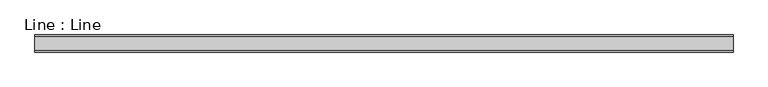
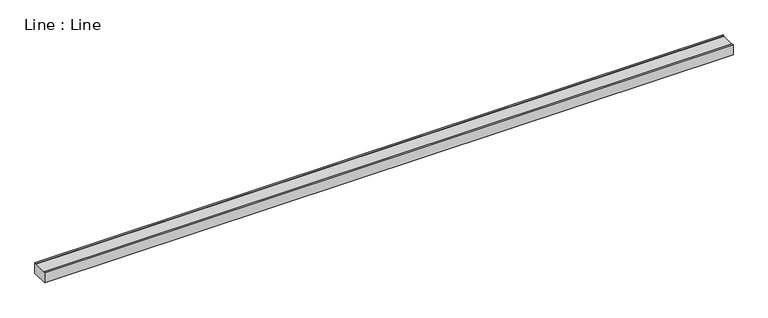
"""IFC4 building model written with IfcOpenShell, lengths in millimetres: light fixture geometry, Line : Line."""

from ifc_helpers import new_model, si_unit, frame, origin, place, context, project, spatial, polyline, outline, extrude, source, transform, mapped, element, save


def line_line_cc2f1739(model_context):
    return source(origin(), model_context, "Body", "SweptSolid", [
        extrude(outline(polyline([(-13.2699605, -0.6594598), (13.2699605, -0.6594598), (13.2699605, 0.4921885), (15.2699605, 0.4921885), (15.2699605, -18.9218892), (-15.2699605, -18.9218892), (-15.2699605, 0.4921885), (-13.2699605, 0.4921885), (-13.2699605, -0.6594598)])), frame((0.0, 0.0, 0.0), z_axis=(1.0, 0.0, 0.0), x_axis=(0.0, 1.0, 0.0)), (0.0, 0.0, 1.0), 1247.3503927),
    ])


if __name__ == "__main__":
    model = new_model("IFC4")
    model_context = context("Model", 3, world=origin())
    ifc_project = project(units=[si_unit("LENGTHUNIT", "METRE", prefix="MILLI")], contexts=[model_context])
    site = spatial("IfcSite", under=ifc_project)
    building = spatial("IfcBuilding", under=site)
    placement = place(None, origin())
    line_line_shape = line_line_cc2f1739(model_context)
    element("IfcLightFixture", 1, ObjectType="Line : Line", at=placement, inside=building, context=model_context, shape_type="MappedRepresentation", body=[
        mapped(line_line_shape, transform((0.0, 0.0, 0.0), x_axis=(1.0, 0.0, 0.0), y_axis=(0.0, 1.0, 0.0), z_axis=(0.0, 0.0, 1.0))),
    ])
    save(model, "model.ifc")
